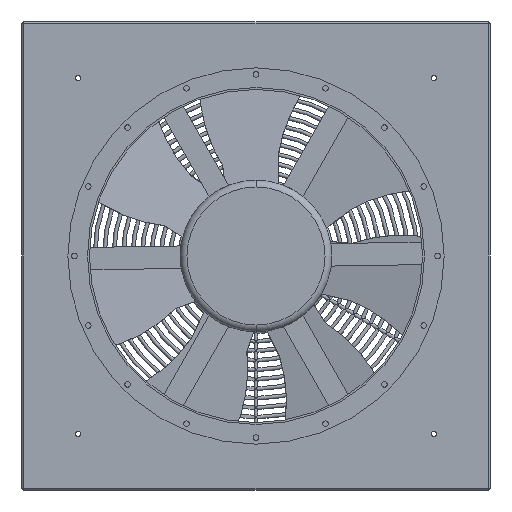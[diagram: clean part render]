
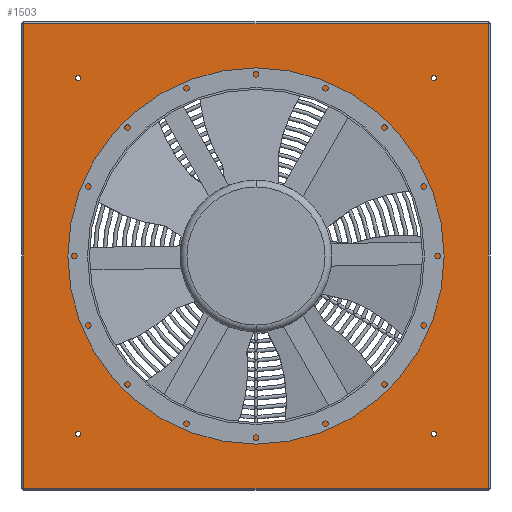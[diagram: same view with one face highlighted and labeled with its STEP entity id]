
A CAD part, front view. The second image highlights one B-rep face of the part: STEP entity #1503.
In plain terms, the highlighted planar face has unit normal (0, -1, 0).
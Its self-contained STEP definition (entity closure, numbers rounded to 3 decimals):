
#1503=ADVANCED_FACE('',(#3068,#3069,#3070,#3071,#3072,#3073),#3074,.F.);
#3068=FACE_OUTER_BOUND('',#4642,.T.);
#3069=FACE_BOUND('',#4643,.T.);
#3070=FACE_BOUND('',#4644,.T.);
#3071=FACE_BOUND('',#4645,.T.);
#3072=FACE_BOUND('',#4646,.T.);
#3073=FACE_BOUND('',#4647,.T.);
#3074=PLANE('',#4648);
#4642=EDGE_LOOP('',(#9750,#9751,#9752,#9753));
#4643=EDGE_LOOP('',(#9754,#9755));
#4644=EDGE_LOOP('',(#9756,#9757));
#4645=EDGE_LOOP('',(#9758,#9759));
#4646=EDGE_LOOP('',(#9760,#9761));
#4647=EDGE_LOOP('',(#9762,#9763));
#4648=AXIS2_PLACEMENT_3D('',#9764,#9765,#9766);
#9750=ORIENTED_EDGE('',*,*,#11854,.F.);
#9751=ORIENTED_EDGE('',*,*,#11860,.T.);
#9752=ORIENTED_EDGE('',*,*,#11866,.T.);
#9753=ORIENTED_EDGE('',*,*,#11894,.F.);
#9754=ORIENTED_EDGE('',*,*,#11827,.T.);
#9755=ORIENTED_EDGE('',*,*,#10597,.T.);
#9756=ORIENTED_EDGE('',*,*,#11838,.T.);
#9757=ORIENTED_EDGE('',*,*,#10582,.T.);
#9758=ORIENTED_EDGE('',*,*,#11841,.T.);
#9759=ORIENTED_EDGE('',*,*,#10577,.T.);
#9760=ORIENTED_EDGE('',*,*,#11844,.T.);
#9761=ORIENTED_EDGE('',*,*,#10572,.T.);
#9762=ORIENTED_EDGE('',*,*,#11847,.T.);
#9763=ORIENTED_EDGE('',*,*,#10567,.T.);
#9764=CARTESIAN_POINT('',(0.0,-453.5,0.0));
#9765=DIRECTION('',(0.0,1.0,0.0));
#9766=DIRECTION('',(1.0,0.0,-0.0));
#10567=EDGE_CURVE('',#13179,#13183,#13185,.T.);
#10572=EDGE_CURVE('',#13188,#13192,#13194,.T.);
#10577=EDGE_CURVE('',#13197,#13201,#13203,.T.);
#10582=EDGE_CURVE('',#13206,#13210,#13212,.T.);
#10597=EDGE_CURVE('',#13233,#13237,#13239,.T.);
#11827=EDGE_CURVE('',#13237,#13233,#14751,.T.);
#11838=EDGE_CURVE('',#13210,#13206,#14762,.T.);
#11841=EDGE_CURVE('',#13201,#13197,#14765,.T.);
#11844=EDGE_CURVE('',#13192,#13188,#14768,.T.);
#11847=EDGE_CURVE('',#13183,#13179,#14771,.T.);
#11854=EDGE_CURVE('',#14775,#14781,#14782,.T.);
#11860=EDGE_CURVE('',#14775,#14789,#14791,.T.);
#11866=EDGE_CURVE('',#14789,#14793,#14800,.T.);
#11894=EDGE_CURVE('',#14781,#14793,#14841,.T.);
#13179=VERTEX_POINT('',#28499);
#13183=VERTEX_POINT('',#28504);
#13185=CIRCLE('',#28507,7.0);
#13188=VERTEX_POINT('',#28510);
#13192=VERTEX_POINT('',#28515);
#13194=CIRCLE('',#28518,7.0);
#13197=VERTEX_POINT('',#28521);
#13201=VERTEX_POINT('',#28526);
#13203=CIRCLE('',#28529,7.0);
#13206=VERTEX_POINT('',#28532);
#13210=VERTEX_POINT('',#28537);
#13212=CIRCLE('',#28540,7.0);
#13233=VERTEX_POINT('',#28565);
#13237=VERTEX_POINT('',#28570);
#13239=CIRCLE('',#28573,450.0);
#14751=CIRCLE('',#43258,450.0);
#14762=CIRCLE('',#43269,7.0);
#14765=CIRCLE('',#43272,7.0);
#14768=CIRCLE('',#43275,7.0);
#14771=CIRCLE('',#43278,7.0);
#14775=VERTEX_POINT('',#43282);
#14781=VERTEX_POINT('',#43288);
#14782=LINE('',#43289,#43290);
#14789=VERTEX_POINT('',#43299);
#14791=LINE('',#43301,#43302);
#14793=VERTEX_POINT('',#43304);
#14800=LINE('',#43311,#43312);
#14841=LINE('',#43361,#43362);
#28499=CARTESIAN_POINT('',(-468.0,-453.5,-475.0));
#28504=CARTESIAN_POINT('',(-482.0,-453.5,-475.0));
#28507=AXIS2_PLACEMENT_3D('',#44433,#44434,#44435);
#28510=CARTESIAN_POINT('',(482.0,-453.5,-475.0));
#28515=CARTESIAN_POINT('',(468.0,-453.5,-475.0));
#28518=AXIS2_PLACEMENT_3D('',#44441,#44442,#44443);
#28521=CARTESIAN_POINT('',(482.0,-453.5,475.0));
#28526=CARTESIAN_POINT('',(468.0,-453.5,475.0));
#28529=AXIS2_PLACEMENT_3D('',#44449,#44450,#44451);
#28532=CARTESIAN_POINT('',(-468.0,-453.5,475.0));
#28537=CARTESIAN_POINT('',(-482.0,-453.5,475.0));
#28540=AXIS2_PLACEMENT_3D('',#44457,#44458,#44459);
#28565=CARTESIAN_POINT('',(450.0,-453.5,0.));
#28570=CARTESIAN_POINT('',(-450.0,-453.5,0.));
#28573=AXIS2_PLACEMENT_3D('',#44481,#44482,#44483);
#43258=AXIS2_PLACEMENT_3D('',#45726,#45727,#45728);
#43269=AXIS2_PLACEMENT_3D('',#45741,#45742,#45743);
#43272=AXIS2_PLACEMENT_3D('',#45747,#45748,#45749);
#43275=AXIS2_PLACEMENT_3D('',#45753,#45754,#45755);
#43278=AXIS2_PLACEMENT_3D('',#45759,#45760,#45761);
#43282=CARTESIAN_POINT('',(620.0,-453.5,620.0));
#43288=CARTESIAN_POINT('',(620.0,-453.5,-620.0));
#43289=CARTESIAN_POINT('',(620.0,-453.5,0.0));
#43290=VECTOR('',#45774,1.0);
#43299=CARTESIAN_POINT('',(-620.0,-453.5,620.0));
#43301=CARTESIAN_POINT('',(0.0,-453.5,620.0));
#43302=VECTOR('',#45783,1.0);
#43304=CARTESIAN_POINT('',(-620.0,-453.5,-620.0));
#43311=CARTESIAN_POINT('',(-620.0,-453.5,0.0));
#43312=VECTOR('',#45793,1.0);
#43361=CARTESIAN_POINT('',(0.,-453.5,-620.0));
#43362=VECTOR('',#45838,1.0);
#44433=CARTESIAN_POINT('',(-475.0,-453.5,-475.0));
#44434=DIRECTION('',(-0.0,1.0,0.0));
#44435=DIRECTION('',(1.0,0.0,0.0));
#44441=CARTESIAN_POINT('',(475.0,-453.5,-475.0));
#44442=DIRECTION('',(-0.0,1.0,0.0));
#44443=DIRECTION('',(1.0,0.0,0.0));
#44449=CARTESIAN_POINT('',(475.0,-453.5,475.0));
#44450=DIRECTION('',(-0.0,1.0,0.0));
#44451=DIRECTION('',(1.0,0.0,0.0));
#44457=CARTESIAN_POINT('',(-475.0,-453.5,475.0));
#44458=DIRECTION('',(-0.0,1.0,0.0));
#44459=DIRECTION('',(1.0,0.0,0.0));
#44481=CARTESIAN_POINT('',(0.0,-453.5,0.0));
#44482=DIRECTION('',(-0.0,1.0,0.0));
#44483=DIRECTION('',(1.0,0.0,0.0));
#45726=CARTESIAN_POINT('',(0.0,-453.5,0.0));
#45727=DIRECTION('',(-0.0,1.0,0.0));
#45728=DIRECTION('',(1.0,0.0,0.0));
#45741=CARTESIAN_POINT('',(-475.0,-453.5,475.0));
#45742=DIRECTION('',(-0.0,1.0,0.0));
#45743=DIRECTION('',(1.0,0.0,0.0));
#45747=CARTESIAN_POINT('',(475.0,-453.5,475.0));
#45748=DIRECTION('',(-0.0,1.0,0.0));
#45749=DIRECTION('',(1.0,0.0,0.0));
#45753=CARTESIAN_POINT('',(475.0,-453.5,-475.0));
#45754=DIRECTION('',(-0.0,1.0,0.0));
#45755=DIRECTION('',(1.0,0.0,0.0));
#45759=CARTESIAN_POINT('',(-475.0,-453.5,-475.0));
#45760=DIRECTION('',(-0.0,1.0,0.0));
#45761=DIRECTION('',(1.0,0.0,0.0));
#45774=DIRECTION('',(0.0,0.0,-1.0));
#45783=DIRECTION('',(-1.0,0.,0.));
#45793=DIRECTION('',(0.0,0.0,-1.0));
#45838=DIRECTION('',(-1.0,0.,0.));
